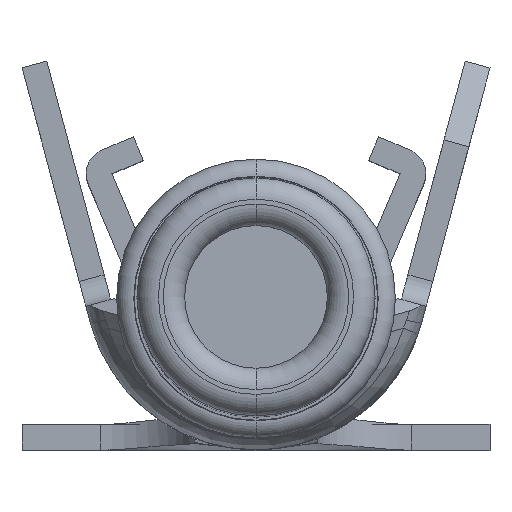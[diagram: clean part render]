
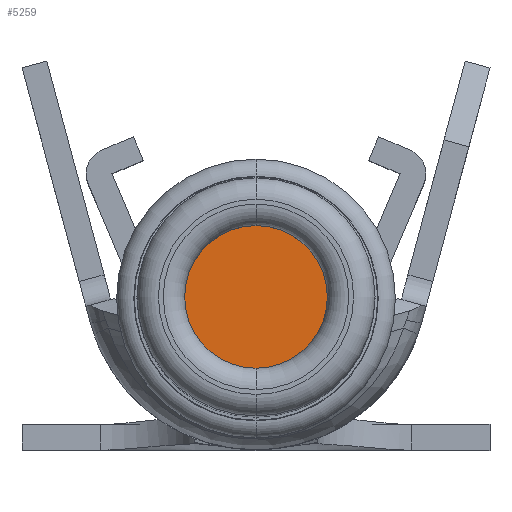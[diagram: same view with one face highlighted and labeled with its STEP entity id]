
A CAD part, top view. The second image highlights one B-rep face of the part: STEP entity #5259.
In plain terms, the highlighted planar face has unit normal (0, 0, 1).
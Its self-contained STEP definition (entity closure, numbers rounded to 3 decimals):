
#1662=CARTESIAN_POINT('',(0.,0.,-0.559));
#1663=DIRECTION('',(0.,0.,1.));
#1664=DIRECTION('',(0.,1.,0.));
#1665=AXIS2_PLACEMENT_3D('',#1662,#1663,#1664);
#1667=CARTESIAN_POINT('',(0.,0.,-0.559));
#1668=DIRECTION('',(0.,0.,-1.));
#1669=DIRECTION('',(0.,1.,0.));
#1670=AXIS2_PLACEMENT_3D('',#1667,#1668,#1669);
#2016=CARTESIAN_POINT('',(0.,0.845,-0.559));
#2018=VERTEX_POINT('',#2016);
#2030=CARTESIAN_POINT('',(0.,-0.845,-0.559));
#2032=VERTEX_POINT('',#2030);
#5250=CARTESIAN_POINT('',(0.,0.,-0.559));
#5251=DIRECTION('',(0.,0.,-1.));
#5252=DIRECTION('',(0.,-1.,0.));
#5253=AXIS2_PLACEMENT_3D('',#5250,#5251,#5252);
#5254=PLANE('',#5253);
#5255=ORIENTED_EDGE('',*,*,#5229,.F.);
#5256=ORIENTED_EDGE('',*,*,#5245,.T.);
#5257=EDGE_LOOP('',(#5255,#5256));
#5258=FACE_OUTER_BOUND('',#5257,.F.);
#1666=CIRCLE('',#1665,0.845);
#1671=CIRCLE('',#1670,0.845);
#5229=EDGE_CURVE('',#2018,#2032,#1666,.T.);
#5245=EDGE_CURVE('',#2018,#2032,#1671,.T.);
#5259=ADVANCED_FACE('',(#5258),#5254,.F.);
